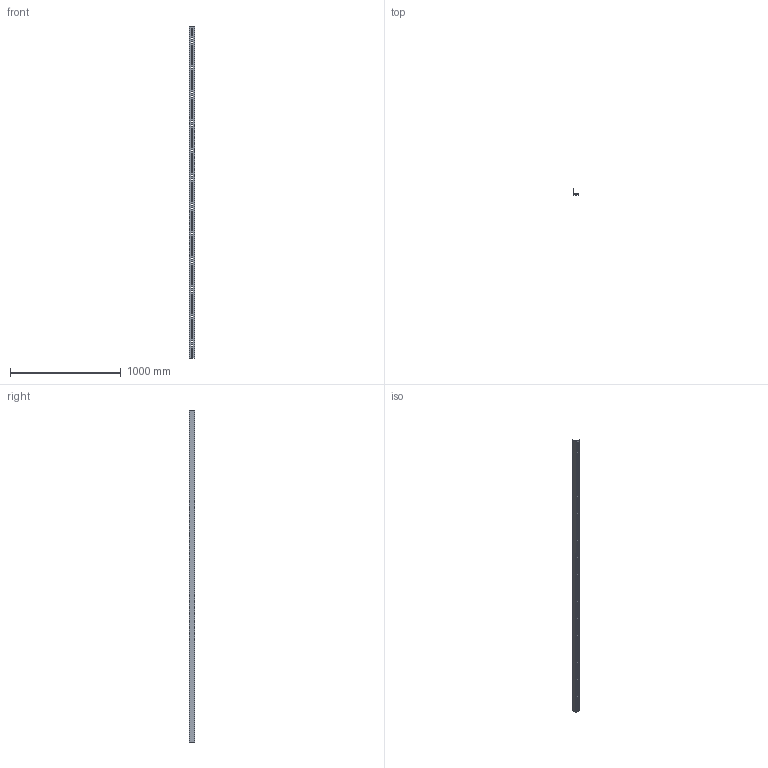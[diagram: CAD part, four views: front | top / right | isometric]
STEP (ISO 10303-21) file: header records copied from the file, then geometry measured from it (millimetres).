
FILE_DESCRIPTION (( 'STEP AP203' ), '1' );
FILE_NAME ('EF5005.STEP', '2024-09-09T20:55:34', ( '' ), ( '' ), 'SwSTEP 2.0', 'SolidWorks 2023', '' );
FILE_SCHEMA (( 'CONFIG_CONTROL_DESIGN' ));
Length unit declared in the file: millimetre
Products named in the file (1): EF5005
Bounding box: 50 x 50 x 3000 mm (x, y, z)
Volume: 1215495.6 mm3; surface area: 560537.3 mm2
Topology: 1 solids, 1 shells, 411 faces, 1227 edges, 818 vertices
Faces by surface type: cylinder 242, plane 169
Entity records: 14398 total; most frequent: DIRECTION 2535, CARTESIAN_POINT 2457, ORIENTED_EDGE 2454, EDGE_CURVE 1227, AXIS2_PLACEMENT_3D 896, VERTEX_POINT 818, VECTOR 743, LINE 743
